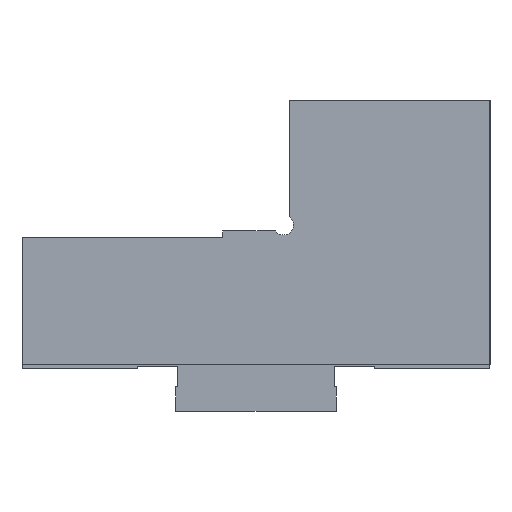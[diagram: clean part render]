
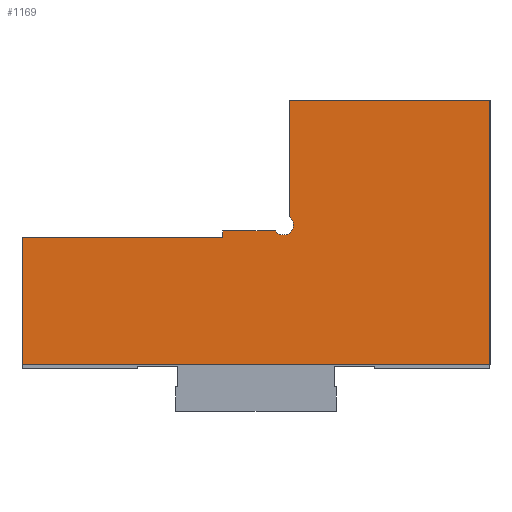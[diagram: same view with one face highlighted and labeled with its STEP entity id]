
A CAD part, left-side view. The second image highlights one B-rep face of the part: STEP entity #1169.
In plain terms, the highlighted planar face has unit normal (-1, 0, 0).
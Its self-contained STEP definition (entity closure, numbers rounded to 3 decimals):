
#13=DIRECTION('',(0.,-1.,0.));
#14=VECTOR('',#13,30.);
#15=CARTESIAN_POINT('',(-62.2,-5.,19.6));
#16=LINE('',#15,#14);
#61=DIRECTION('',(0.,-1.,0.));
#62=VECTOR('',#61,30.);
#63=CARTESIAN_POINT('',(-62.2,35.,-0.9));
#64=LINE('',#63,#62);
#65=DIRECTION('',(0.,0.,1.));
#66=VECTOR('',#65,1.);
#67=CARTESIAN_POINT('',(-62.2,5.,-0.9));
#68=LINE('',#67,#66);
#69=DIRECTION('',(0.,-1.,0.));
#70=VECTOR('',#69,7.879);
#71=CARTESIAN_POINT('',(-62.2,5.,0.1));
#72=LINE('',#71,#70);
#73=DIRECTION('',(0.,-0.707,-0.707));
#74=VECTOR('',#73,0.227);
#75=CARTESIAN_POINT('',(-62.2,-2.879,0.1));
#76=LINE('',#75,#74);
#77=CARTESIAN_POINT('',(-62.2,-4.1,1.));
#78=DIRECTION('',(-1.,0.,0.));
#79=DIRECTION('',(0.,0.707,-0.707));
#80=AXIS2_PLACEMENT_3D('',#77,#78,#79);
#82=DIRECTION('',(0.,0.707,0.707));
#83=VECTOR('',#82,0.227);
#84=CARTESIAN_POINT('',(-62.2,-5.161,2.061));
#85=LINE('',#84,#83);
#86=DIRECTION('',(0.,0.,-1.));
#87=VECTOR('',#86,17.379);
#88=CARTESIAN_POINT('',(-62.2,-5.,19.6));
#89=LINE('',#88,#87);
#94=DIRECTION('',(0.,0.,-1.));
#95=VECTOR('',#94,19.);
#96=CARTESIAN_POINT('',(-62.2,35.,-0.9));
#97=LINE('',#96,#95);
#130=DIRECTION('',(0.,-1.,0.));
#131=VECTOR('',#130,70.);
#132=CARTESIAN_POINT('',(-62.2,35.,-19.9));
#133=LINE('',#132,#131);
#166=DIRECTION('',(0.,0.,1.));
#167=VECTOR('',#166,39.5);
#168=CARTESIAN_POINT('',(-62.2,-35.,-19.9));
#169=LINE('',#168,#167);
#831=CARTESIAN_POINT('',(-62.2,-35.,19.6));
#833=VERTEX_POINT('',#831);
#867=CARTESIAN_POINT('',(-62.2,35.,-19.9));
#868=VERTEX_POINT('',#867);
#879=CARTESIAN_POINT('',(-62.2,-5.,19.6));
#881=VERTEX_POINT('',#879);
#939=CARTESIAN_POINT('',(-62.2,-5.,2.221));
#940=VERTEX_POINT('',#939);
#943=CARTESIAN_POINT('',(-62.2,-3.039,-0.061));
#944=CARTESIAN_POINT('',(-62.2,-5.161,2.061));
#945=VERTEX_POINT('',#943);
#946=VERTEX_POINT('',#944);
#947=CARTESIAN_POINT('',(-62.2,-2.879,0.1));
#948=VERTEX_POINT('',#947);
#955=CARTESIAN_POINT('',(-62.2,35.,-0.9));
#956=CARTESIAN_POINT('',(-62.2,5.,-0.9));
#957=VERTEX_POINT('',#955);
#958=VERTEX_POINT('',#956);
#959=CARTESIAN_POINT('',(-62.2,5.,0.1));
#960=VERTEX_POINT('',#959);
#995=CARTESIAN_POINT('',(-62.2,-35.,-19.9));
#996=VERTEX_POINT('',#995);
#1142=CARTESIAN_POINT('',(-62.2,35.,-19.6));
#1143=DIRECTION('',(-1.,0.,0.));
#1144=DIRECTION('',(0.,-1.,0.));
#1145=AXIS2_PLACEMENT_3D('',#1142,#1143,#1144);
#1146=PLANE('',#1145);
#1148=ORIENTED_EDGE('',*,*,#1147,.T.);
#1150=ORIENTED_EDGE('',*,*,#1149,.T.);
#1152=ORIENTED_EDGE('',*,*,#1151,.T.);
#1154=ORIENTED_EDGE('',*,*,#1153,.T.);
#1156=ORIENTED_EDGE('',*,*,#1155,.T.);
#1158=ORIENTED_EDGE('',*,*,#1157,.T.);
#1159=ORIENTED_EDGE('',*,*,#1132,.F.);
#1160=ORIENTED_EDGE('',*,*,#1098,.T.);
#1162=ORIENTED_EDGE('',*,*,#1161,.F.);
#1164=ORIENTED_EDGE('',*,*,#1163,.F.);
#1166=ORIENTED_EDGE('',*,*,#1165,.F.);
#1167=EDGE_LOOP('',(#1148,#1150,#1152,#1154,#1156,#1158,#1159,#1160,#1162,#1164,
#1166));
#1168=FACE_OUTER_BOUND('',#1167,.F.);
#1169=ADVANCED_FACE('',(#1168),#1146,.T.);
#81=CIRCLE('',#80,1.5);
#1098=EDGE_CURVE('',#881,#833,#16,.T.);
#1132=EDGE_CURVE('',#881,#940,#89,.T.);
#1147=EDGE_CURVE('',#957,#958,#64,.T.);
#1149=EDGE_CURVE('',#958,#960,#68,.T.);
#1151=EDGE_CURVE('',#960,#948,#72,.T.);
#1153=EDGE_CURVE('',#948,#945,#76,.T.);
#1155=EDGE_CURVE('',#945,#946,#81,.T.);
#1157=EDGE_CURVE('',#946,#940,#85,.T.);
#1161=EDGE_CURVE('',#996,#833,#169,.T.);
#1163=EDGE_CURVE('',#868,#996,#133,.T.);
#1165=EDGE_CURVE('',#957,#868,#97,.T.);
